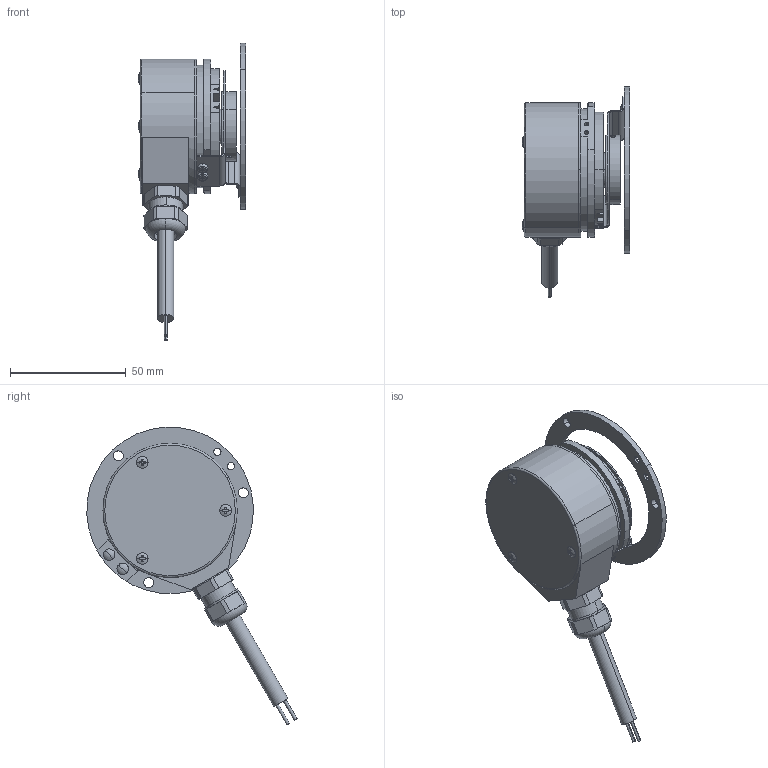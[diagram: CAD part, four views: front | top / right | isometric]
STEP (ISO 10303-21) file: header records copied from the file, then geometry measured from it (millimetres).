
FILE_DESCRIPTION (( 'STEP AP203' ), '1' );
FILE_NAME ('8.5824.47X1.XXXX.STEP', '2013-02-19T14:40:35', ( 'Hodot' ), ( '' ), 'SwSTEP 2.0', 'SolidWorks 2012', '' );
FILE_SCHEMA (( 'CONFIG_CONTROL_DESIGN' ));
Length unit declared in the file: millimetre
Products named in the file (1): 8.5824.47X1.XXXX
Bounding box: 46.58 x 90.81 x 128.51 mm (x, y, z)
Volume: 58853.5 mm3; surface area: 46076.9 mm2
Topology: 22 solids, 22 shells, 652 faces, 1548 edges, 960 vertices
Faces by surface type: cylinder 238, plane 238, cone 116, torus 50, sphere 10
Entity records: 19169 total; most frequent: CARTESIAN_POINT 3641, DIRECTION 3470, ORIENTED_EDGE 3036, EDGE_CURVE 1518, AXIS2_PLACEMENT_3D 1367, VERTEX_POINT 960, EDGE_LOOP 754, LINE 736
